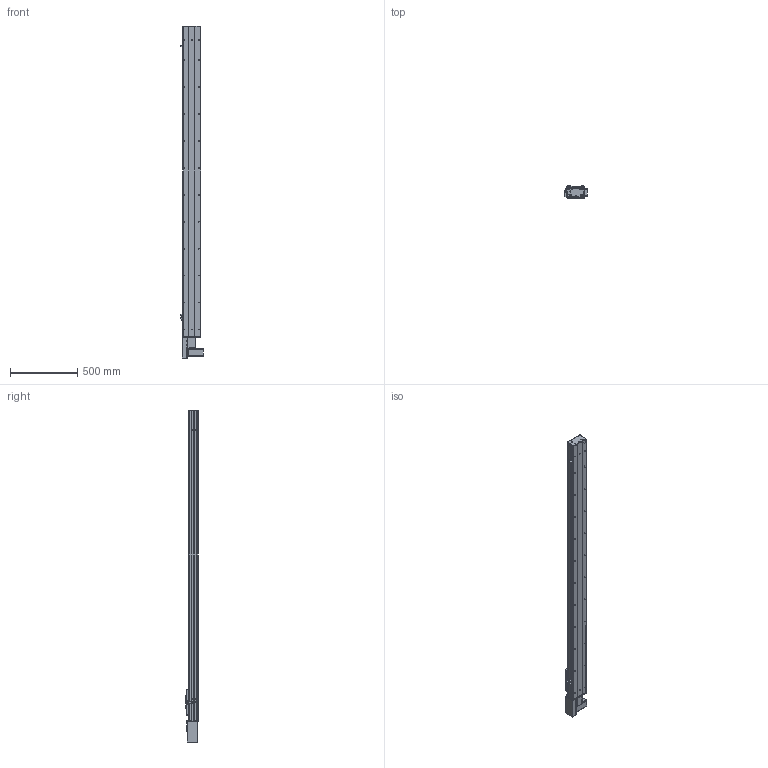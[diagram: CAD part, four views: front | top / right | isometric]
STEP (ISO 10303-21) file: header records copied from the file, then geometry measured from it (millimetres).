
FILE_DESCRIPTION (( 'STEP AP203' ), '1' );
FILE_NAME ('Y135CB-D90-S2000-BR-P400W.STEP', '2020-02-18T02:54:20', ( '微软用户' ), ( '微软中国' ), 'SwSTEP 2.0', 'SolidWorks 2017', '' );
FILE_SCHEMA (( 'CONFIG_CONTROL_DESIGN' ));
Length unit declared in the file: millimetre
Products named in the file (18): Y135CB-D90-S2000-BR-P400W; 5CB --掛极耜裔啣-; 135CB---遴掛极.-; C-詩湍揤踡え-陔; 35CB---喘謫眊楊擘啣; 135CB--詩湍-CE; Y10B-耜蚾蟀諉啣----; Y100-135俋离換覜ん--; Y俋欶BR----; Y135C-陔俋离換覜結え-; 0B-埴倛裔啣; 5C--俋欶; 0B-源倛裔啣; C-雄赽釱--; 0B-萇儂楊擘啣; Y10B--々湍喘謫眊--666; san松下电机400不带刹车----; Y135CB-耜裔
Assembly tree (21 placements, depth 2):
  Y135CB-D90-S2000-BR-P400W
    Y135CB-耜裔
    135CB---遴掛极.-
    35CB---喘謫眊楊擘啣
    Y10B-耜蚾蟀諉啣----
    Y俋欶BR----
    0B-埴倛裔啣
    0B-源倛裔啣
    0B-萇儂楊擘啣
    san松下电机400不带刹车----
    5CB --掛极耜裔啣-  x2
    C-詩湍揤踡え-陔  x2
    135CB--詩湍-CE
    Y100-135俋离換覜ん--  x3
    Y135C-陔俋离換覜結え-
    5C--俋欶
    C-雄赽釱--
    Y10B--々湍喘謫眊--666
Bounding box: 167.5 x 91 x 2464.5 mm (x, y, z)
Volume: 6984213.6 mm3; surface area: 2759847.7 mm2
Topology: 21 solids, 21 shells, 965 faces, 2617 edges, 1734 vertices
Faces by surface type: cylinder 491, plane 458, cone 16
Entity records: 30351 total; most frequent: DIRECTION 5041, CARTESIAN_POINT 5032, ORIENTED_EDGE 4710, EDGE_CURVE 2355, AXIS2_PLACEMENT_3D 1843, VERTEX_POINT 1562, LINE 1355, VECTOR 1355
